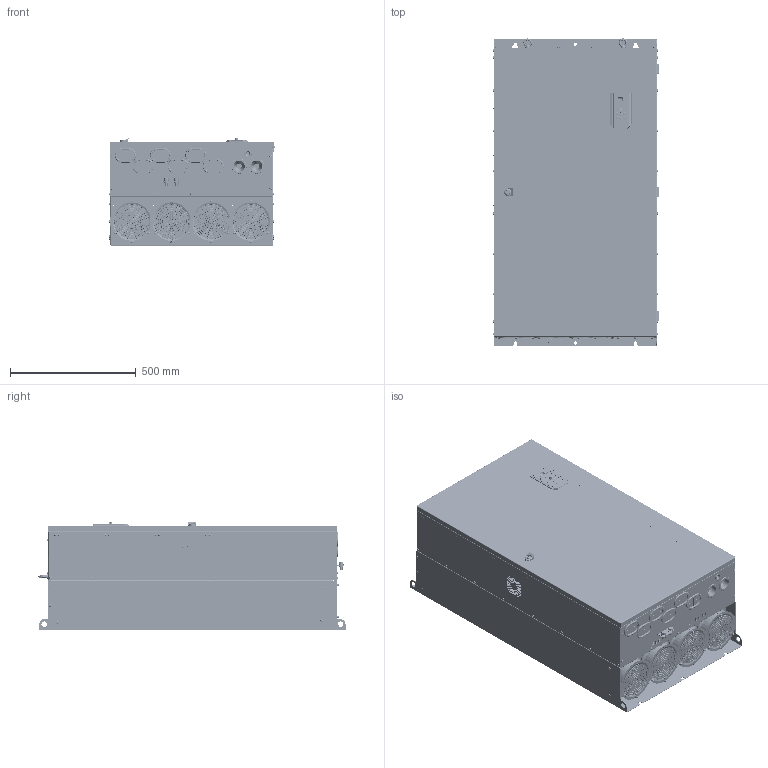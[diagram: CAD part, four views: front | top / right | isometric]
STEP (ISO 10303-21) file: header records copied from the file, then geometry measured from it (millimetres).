
FILE_DESCRIPTION((''),'2;1');
FILE_NAME('D9-DRIVE_REV00_ASM','2022-03-02T10:29:10',('wendong.luo'),(''),'CREO PARAMETRIC BY PTC INC, 2018100','CREO PARAMETRIC BY PTC INC, 2018100','');
FILE_SCHEMA(('CONFIG_CONTROL_DESIGN','GEOMETRIC_VALIDATION_PROPERTIES_MIM'));
Products named in the file (60): D9-MECHANICAL-PART; PRT0001_7; 17251-5YE-2B_1; 17251_ASM_ASM; M0200005; M0104030; M0104033; E0100084; E0400023; E0400008; E0400009; E0400001; E0400011; E0100084_ASM; M0203006; M0203025; M0203032; M0104034; CU_NEW_ASM; M0202040; M0202034; M0202055; M0202054; M12-25; M12-SPRING_FLAT; M12-WASHER; M0202037_ASM; M10-25; M10-SPRING_FLAT; M10-WASHER; M0202036_ASM; M0202007; M0100015; M0202003; M0202014; P_FHS_5_12_; RIVETING-NUT-4_; FASTEN_D9_ASM; M0204023; M0204014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
Assembly tree (249 placements, depth 4):
  D9-DRIVE_REV00_ASM
    D9-MECHANICAL-PART
    17251_ASM_ASM  x4
      PRT0001_7
      17251-5YE-2B_1
    M0200005  x4
    M0104030
    CU_NEW_ASM
      M0104033
      E0100084_ASM
        E0100084
        E0400023
        E0400008
        E0400009  x2
        E0400001
        E0400011
      M0203006
      M0203025
      M0203032
      M0104034
    FASTEN_D9_ASM
      M0202040  x16
      M0202034  x39
      M0202055  x2
      M0202054  x2
      M0202037_ASM  x14
        M12-25
        M12-SPRING_FLAT
        M12-WASHER
      M0202036_ASM  x2
        M10-25
        M10-SPRING_FLAT
        M10-WASHER
      M0202007  x60
      M0100015  x2
      M0202003  x4
      M0202014  x4
      P_FHS_5_12_  x12
      RIVETING-NUT-4_  x14
    M0204023  x6
    M0204014  x3
    M0204013
    M0204022  x2
    D9-DOOR-ASM_ASM
      M0100106_ASM
        M0100106
      M0104027
      EXTERNAL_KEYPAD_ASM
        M0104016
        M0104018
        M0104017
        M0203007
      M0204019
      M0204017_ASM
        1092130761
        1092130763
        1092130764
        MS705-1B
      M0204018  x6
      M0202041  x12
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Bounding box: 662.2 x 1222.9 x 434 mm (x, y, z)
Volume: 9214473.3 mm3; surface area: 9199485.9 mm2
Topology: 498 solids, 576 shells, 37682 faces, 98339 edges, 62902 vertices
Faces by surface type: plane 17415, cylinder 9545, bspline 5632, extrusion 1883, torus 1621, cone 1246, sphere 340
Entity records: 724450 total; most frequent: CARTESIAN_POINT 194279, ORIENTED_EDGE 88656, DIRECTION 75597, EDGE_CURVE 44395, PRESENTATION_STYLE_ASSIGNMENT 34058, STYLED_ITEM 32420, CURVE_STYLE 31855, VERTEX_POINT 28962
